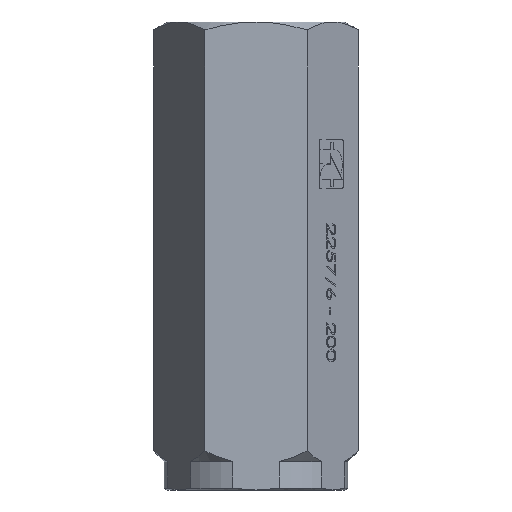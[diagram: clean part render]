
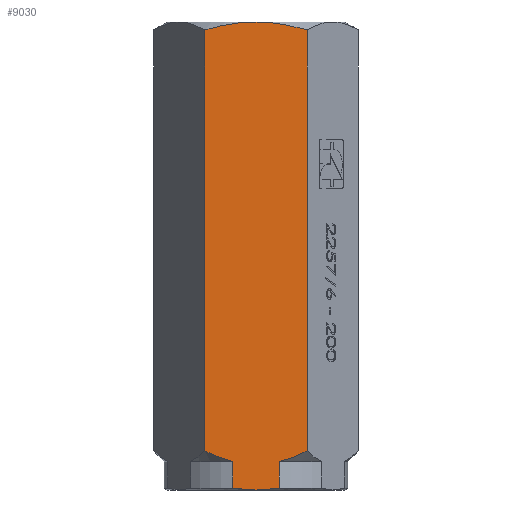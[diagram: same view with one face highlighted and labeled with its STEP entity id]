
A CAD part, front view. The second image highlights one B-rep face of the part: STEP entity #9030.
In plain terms, the highlighted planar face has unit normal (0, -1, 0).
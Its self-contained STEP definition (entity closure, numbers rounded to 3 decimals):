
#132 = CARTESIAN_POINT ( 'NONE',  ( 1.83, -37.5, 99. ) ) ;
#261 = CARTESIAN_POINT ( 'NONE',  ( 0., -37.5, -99. ) ) ;
#330 = LINE ( 'NONE', #10246, #8446 ) ;
#658 = CARTESIAN_POINT ( 'NONE',  ( 19.732, -37.5, -83.384 ) ) ;
#811 = VERTEX_POINT ( 'NONE', #3144 ) ;
#990 = FACE_OUTER_BOUND ( 'NONE', #19448, .T. ) ;
#1009 = CARTESIAN_POINT ( 'NONE',  ( -7.293, -37.5, 98.686 ) ) ;
#1100 = CARTESIAN_POINT ( 'NONE',  ( -21.651, -37.5, -82.449 ) ) ;
#1357 = EDGE_CURVE ( 'NONE', #19679, #2490, #330, .T. ) ;
#1399 = ORIENTED_EDGE ( 'NONE', *, *, #8885, .T. ) ;
#1481 = CARTESIAN_POINT ( 'NONE',  ( -10.282, -37.5, -86.869 ) ) ;
#2006 = CARTESIAN_POINT ( 'NONE',  ( 0., -37.5, 99. ) ) ;
#2187 = CARTESIAN_POINT ( 'NONE',  ( 16.802, -37.5, -84.668 ) ) ;
#2286 = CARTESIAN_POINT ( 'NONE',  ( -14.519, -37.5, 97.453 ) ) ;
#2409 = ORIENTED_EDGE ( 'NONE', *, *, #3510, .T. ) ;
#2432 = CARTESIAN_POINT ( 'NONE',  ( -12.715, -37.5, 97.811 ) ) ;
#2490 = VERTEX_POINT ( 'NONE', #4792 ) ;
#2538 = VERTEX_POINT ( 'NONE', #1100 ) ;
#2547 = CARTESIAN_POINT ( 'NONE',  ( -18.113, -37.5, 96.626 ) ) ;
#2615 = CARTESIAN_POINT ( 'NONE',  ( -19.89, -37.5, 96.159 ) ) ;
#2822 = CARTESIAN_POINT ( 'NONE',  ( 9.763, -37.5, -87. ) ) ;
#2914 = CARTESIAN_POINT ( 'NONE',  ( 5.703, -37.5, -98.756 ) ) ;
#3143 = CARTESIAN_POINT ( 'NONE',  ( 18.15, -37.5, 96.661 ) ) ;
#3144 = CARTESIAN_POINT ( 'NONE',  ( 9.763, -37.5, -98.278 ) ) ;
#3213 = CARTESIAN_POINT ( 'NONE',  ( -21.651, -37.5, 95.651 ) ) ;
#3510 = EDGE_CURVE ( 'NONE', #14031, #11537, #8775, .T. ) ;
#3809 = VECTOR ( 'NONE', #10027, 1000. ) ;
#3825 = B_SPLINE_CURVE_WITH_KNOTS ( 'NONE', 3,
 ( #9386, #17140, #6305, #261 ),
 .UNSPECIFIED., .F., .F.,
 ( 4, 4 ),
 ( 0.051, 0.061 ),
 .UNSPECIFIED. ) ;
#3865 = CARTESIAN_POINT ( 'NONE',  ( 9.763, -37.5, 0. ) ) ;
#3869 = CARTESIAN_POINT ( 'NONE',  ( 21.651, -37.5, 99. ) ) ;
#4163 = B_SPLINE_CURVE_WITH_KNOTS ( 'NONE', 3,
 ( #6710, #15984, #658, #11405, #2187, #18776, #6382, #2822 ),
 .UNSPECIFIED., .F., .F.,
 ( 4, 2, 2, 4 ),
 ( 0.031, 0.035, 0.038, 0.044 ),
 .UNSPECIFIED. ) ;
#4214 = CARTESIAN_POINT ( 'NONE',  ( 0., -37.5, 99. ) ) ;
#4267 = LINE ( 'NONE', #3869, #3809 ) ;
#4395 = CARTESIAN_POINT ( 'NONE',  ( 8.148, -37.5, -98.5 ) ) ;
#4501 = CARTESIAN_POINT ( 'NONE',  ( -11.829, -37.5, -86.432 ) ) ;
#4508 = CARTESIAN_POINT ( 'NONE',  ( 21.651, -37.5, 95.651 ) ) ;
#4792 = CARTESIAN_POINT ( 'NONE',  ( -9.763, -37.5, -87. ) ) ;
#5274 = VECTOR ( 'NONE', #14542, 1000. ) ;
#5365 = CARTESIAN_POINT ( 'NONE',  ( 9.763, -37.5, -87. ) ) ;
#5376 = DIRECTION ( 'NONE',  ( 0., 0., -1. ) ) ;
#5459 = PLANE ( 'NONE',  #7261 ) ;
#5931 = CARTESIAN_POINT ( 'NONE',  ( 9.763, -37.5, -98.278 ) ) ;
#6048 = CARTESIAN_POINT ( 'NONE',  ( -13.861, -37.5, -85.782 ) ) ;
#6170 = CARTESIAN_POINT ( 'NONE',  ( 10.083, -37.5, 98.237 ) ) ;
#6305 = CARTESIAN_POINT ( 'NONE',  ( -3.272, -37.5, -99. ) ) ;
#6382 = CARTESIAN_POINT ( 'NONE',  ( 11.82, -37.5, -86.482 ) ) ;
#6710 = CARTESIAN_POINT ( 'NONE',  ( 21.651, -37.5, -82.449 ) ) ;
#6792 = EDGE_CURVE ( 'NONE', #13045, #9996, #4267, .T. ) ;
#7080 = DIRECTION ( 'NONE',  ( 0., 1., 0. ) ) ;
#7116 = ORIENTED_EDGE ( 'NONE', *, *, #1357, .F. ) ;
#7261 = AXIS2_PLACEMENT_3D ( 'NONE', #16342, #7080, #17903 ) ;
#7607 = CARTESIAN_POINT ( 'NONE',  ( -17.826, -37.5, -84.269 ) ) ;
#7729 = CARTESIAN_POINT ( 'NONE',  ( 7.349, -37.5, 98.594 ) ) ;
#8446 = VECTOR ( 'NONE', #10296, 1000. ) ;
#8775 = B_SPLINE_CURVE_WITH_KNOTS ( 'NONE', 3,
 ( #2006, #17143, #1009, #2432, #2286, #2547, #2615, #3213 ),
 .UNSPECIFIED., .F., .F.,
 ( 4, 2, 2, 4 ),
 ( 0.038, 0.049, 0.054, 0.06 ),
 .UNSPECIFIED. ) ;
#8885 = EDGE_CURVE ( 'NONE', #11537, #2538, #17610, .T. ) ;
#9030 = ADVANCED_FACE ( 'NONE', ( #990 ), #5459, .F. ) ;
#9141 = CARTESIAN_POINT ( 'NONE',  ( -21.651, -37.5, -82.449 ) ) ;
#9257 = CARTESIAN_POINT ( 'NONE',  ( 3.667, -37.5, 98.922 ) ) ;
#9262 = EDGE_CURVE ( 'NONE', #2490, #2538, #15551, .T. ) ;
#9386 = CARTESIAN_POINT ( 'NONE',  ( -9.763, -37.5, -98.278 ) ) ;
#9761 = CARTESIAN_POINT ( 'NONE',  ( 0., -37.5, -99. ) ) ;
#9963 = ORIENTED_EDGE ( 'NONE', *, *, #16164, .F. ) ;
#9996 = VERTEX_POINT ( 'NONE', #10337 ) ;
#10027 = DIRECTION ( 'NONE',  ( 0., 0., -1. ) ) ;
#10150 = LINE ( 'NONE', #3865, #19408 ) ;
#10246 = CARTESIAN_POINT ( 'NONE',  ( -9.763, -37.5, 0. ) ) ;
#10296 = DIRECTION ( 'NONE',  ( 0., 0., 1. ) ) ;
#10337 = CARTESIAN_POINT ( 'NONE',  ( 21.651, -37.5, -82.449 ) ) ;
#10533 = CARTESIAN_POINT ( 'NONE',  ( 1.624, -37.5, -99. ) ) ;
#10779 = CARTESIAN_POINT ( 'NONE',  ( 21.651, -37.5, 95.651 ) ) ;
#10850 = CARTESIAN_POINT ( 'NONE',  ( 0., -37.5, 99. ) ) ;
#11405 = CARTESIAN_POINT ( 'NONE',  ( 17.784, -37.5, -84.256 ) ) ;
#11520 = ORIENTED_EDGE ( 'NONE', *, *, #9262, .F. ) ;
#11537 = VERTEX_POINT ( 'NONE', #19348 ) ;
#11764 = CARTESIAN_POINT ( 'NONE',  ( -9.763, -37.5, -98.278 ) ) ;
#12095 = CARTESIAN_POINT ( 'NONE',  ( 3.253, -37.5, -98.939 ) ) ;
#12215 = CARTESIAN_POINT ( 'NONE',  ( -9.763, -37.5, -87. ) ) ;
#12924 = ORIENTED_EDGE ( 'NONE', *, *, #18114, .T. ) ;
#12985 = CARTESIAN_POINT ( 'NONE',  ( -21.651, -37.5, 99. ) ) ;
#13045 = VERTEX_POINT ( 'NONE', #4508 ) ;
#13221 = ORIENTED_EDGE ( 'NONE', *, *, #15400, .F. ) ;
#13634 = ORIENTED_EDGE ( 'NONE', *, *, #6792, .F. ) ;
#13649 = CARTESIAN_POINT ( 'NONE',  ( 6.522, -37.5, -98.68 ) ) ;
#13765 = CARTESIAN_POINT ( 'NONE',  ( -10.801, -37.5, -86.729 ) ) ;
#14031 = VERTEX_POINT ( 'NONE', #4214 ) ;
#14542 = DIRECTION ( 'NONE',  ( 0., 0., -1. ) ) ;
#15231 = CARTESIAN_POINT ( 'NONE',  ( 8.957, -37.5, -98.396 ) ) ;
#15337 = CARTESIAN_POINT ( 'NONE',  ( -12.34, -37.5, -86.275 ) ) ;
#15400 = EDGE_CURVE ( 'NONE', #19903, #811, #10150, .T. ) ;
#15458 = CARTESIAN_POINT ( 'NONE',  ( 14.603, -37.5, 97.503 ) ) ;
#15551 = B_SPLINE_CURVE_WITH_KNOTS ( 'NONE', 3,
 ( #12215, #1481, #13765, #4501, #15337, #6048, #16882, #7607, #18435, #9141 ),
 .UNSPECIFIED., .F., .F.,
 ( 4, 2, 2, 2, 4 ),
 ( 0.064, 0.065, 0.067, 0.07, 0.077 ),
 .UNSPECIFIED. ) ;
#15635 = B_SPLINE_CURVE_WITH_KNOTS ( 'NONE', 3,
 ( #19829, #10533, #12095, #2914, #13649, #4395, #15231, #5931 ),
 .UNSPECIFIED., .F., .F.,
 ( 4, 2, 2, 4 ),
 ( 0.061, 0.065, 0.068, 0.07 ),
 .UNSPECIFIED. ) ;
#15682 = EDGE_CURVE ( 'NONE', #13045, #14031, #16926, .T. ) ;
#15783 = EDGE_CURVE ( 'NONE', #19679, #19396, #3825, .T. ) ;
#15984 = CARTESIAN_POINT ( 'NONE',  ( 20.698, -37.5, -82.925 ) ) ;
#16164 = EDGE_CURVE ( 'NONE', #9996, #19903, #4163, .T. ) ;
#16342 = CARTESIAN_POINT ( 'NONE',  ( 21.651, -37.5, 99. ) ) ;
#16882 = CARTESIAN_POINT ( 'NONE',  ( -14.861, -37.5, -85.423 ) ) ;
#16926 = B_SPLINE_CURVE_WITH_KNOTS ( 'NONE', 3,
 ( #10779, #3143, #15458, #6170, #16999, #7729, #18563, #9257, #132, #10850 ),
 .UNSPECIFIED., .F., .F.,
 ( 4, 2, 2, 2, 4 ),
 ( 0.016, 0.027, 0.03, 0.032, 0.038 ),
 .UNSPECIFIED. ) ;
#16999 = CARTESIAN_POINT ( 'NONE',  ( 9.175, -37.5, 98.367 ) ) ;
#17140 = CARTESIAN_POINT ( 'NONE',  ( -6.526, -37.5, -98.749 ) ) ;
#17143 = CARTESIAN_POINT ( 'NONE',  ( -3.659, -37.5, 99. ) ) ;
#17610 = LINE ( 'NONE', #12985, #5274 ) ;
#17903 = DIRECTION ( 'NONE',  ( -1., 0., 0. ) ) ;
#18114 = EDGE_CURVE ( 'NONE', #19396, #811, #15635, .T. ) ;
#18435 = CARTESIAN_POINT ( 'NONE',  ( -19.755, -37.5, -83.396 ) ) ;
#18563 = CARTESIAN_POINT ( 'NONE',  ( 6.43, -37.5, 98.69 ) ) ;
#18776 = CARTESIAN_POINT ( 'NONE',  ( 13.833, -37.5, -85.822 ) ) ;
#19348 = CARTESIAN_POINT ( 'NONE',  ( -21.651, -37.5, 95.651 ) ) ;
#19396 = VERTEX_POINT ( 'NONE', #9761 ) ;
#19408 = VECTOR ( 'NONE', #5376, 1000. ) ;
#19448 = EDGE_LOOP ( 'NONE', ( #13634, #19721, #2409, #1399, #11520, #7116, #19998, #12924, #13221, #9963 ) ) ;
#19679 = VERTEX_POINT ( 'NONE', #11764 ) ;
#19721 = ORIENTED_EDGE ( 'NONE', *, *, #15682, .T. ) ;
#19829 = CARTESIAN_POINT ( 'NONE',  ( 0., -37.5, -99. ) ) ;
#19903 = VERTEX_POINT ( 'NONE', #5365 ) ;
#19998 = ORIENTED_EDGE ( 'NONE', *, *, #15783, .T. ) ;
